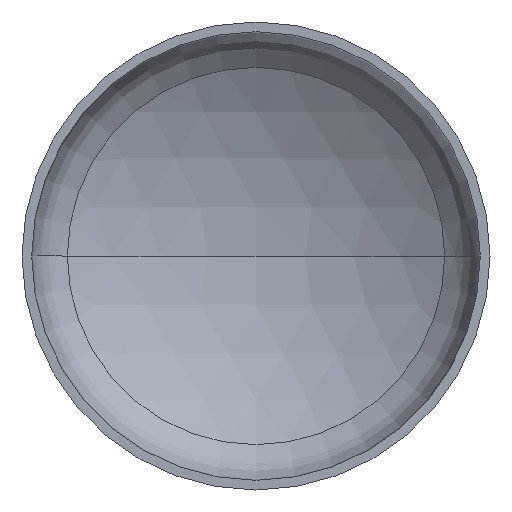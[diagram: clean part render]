
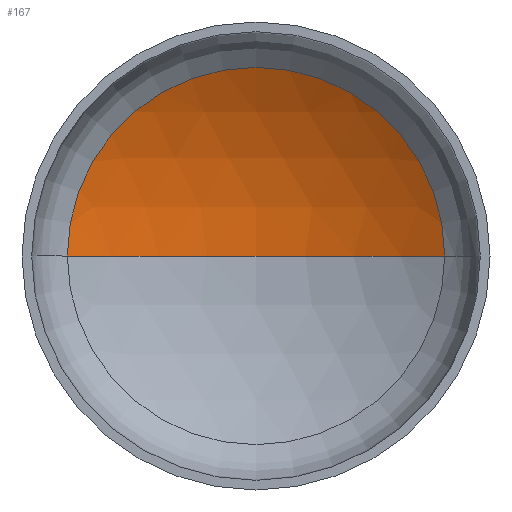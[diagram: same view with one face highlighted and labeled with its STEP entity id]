
A CAD part, front view. The second image highlights one B-rep face of the part: STEP entity #167.
In plain terms, the highlighted spherical face has radius 1120 mm.
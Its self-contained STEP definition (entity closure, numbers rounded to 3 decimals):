
#9 = AXIS2_PLACEMENT_3D ( 'NONE', #233, #38, #179 ) ;
#10 = AXIS2_PLACEMENT_3D ( 'NONE', #117, #84, #149 ) ;
#26 = AXIS2_PLACEMENT_3D ( 'NONE', #143, #174, #148 ) ;
#38 = DIRECTION ( 'NONE',  ( 0., 0., -1. ) ) ;
#39 = ORIENTED_EDGE ( 'NONE', *, *, #342, .T. ) ;
#84 = DIRECTION ( 'NONE',  ( 0., -1., 0. ) ) ;
#86 = CIRCLE ( 'NONE', #10, 564.331 ) ;
#97 = CARTESIAN_POINT ( 'NONE',  ( 0., -691.722, 0. ) ) ;
#117 = CARTESIAN_POINT ( 'NONE',  ( 0., 275.713, 0. ) ) ;
#125 = CARTESIAN_POINT ( 'NONE',  ( 0., 428.278, 0. ) ) ;
#130 = VERTEX_POINT ( 'NONE', #263 ) ;
#143 = CARTESIAN_POINT ( 'NONE',  ( 0., -691.722, 0. ) ) ;
#148 = DIRECTION ( 'NONE',  ( -1., 0., 0. ) ) ;
#149 = DIRECTION ( 'NONE',  ( 1., 0., 0. ) ) ;
#167 = ADVANCED_FACE ( 'NONE', ( #270 ), #281, .F. ) ;
#171 = CIRCLE ( 'NONE', #9, 1120. ) ;
#174 = DIRECTION ( 'NONE',  ( 0., 0., -1. ) ) ;
#179 = DIRECTION ( 'NONE',  ( -1., 0., 0. ) ) ;
#194 = CARTESIAN_POINT ( 'NONE',  ( 564.331, 275.713, 0. ) ) ;
#205 = DIRECTION ( 'NONE',  ( 1., 0., 0. ) ) ;
#233 = CARTESIAN_POINT ( 'NONE',  ( 0., -691.722, 0. ) ) ;
#254 = DIRECTION ( 'NONE',  ( 0., 0., 1. ) ) ;
#263 = CARTESIAN_POINT ( 'NONE',  ( -564.331, 275.713, 0. ) ) ;
#268 = EDGE_LOOP ( 'NONE', ( #392, #39, #389 ) ) ;
#270 = FACE_OUTER_BOUND ( 'NONE', #268, .T. ) ;
#281 = SPHERICAL_SURFACE ( 'NONE', #26, 1120. ) ;
#294 = VERTEX_POINT ( 'NONE', #125 ) ;
#299 = CIRCLE ( 'NONE', #320, 1120. ) ;
#320 = AXIS2_PLACEMENT_3D ( 'NONE', #97, #254, #205 ) ;
#338 = EDGE_CURVE ( 'NONE', #406, #130, #86, .T. ) ;
#342 = EDGE_CURVE ( 'NONE', #294, #406, #171, .T. ) ;
#384 = EDGE_CURVE ( 'NONE', #294, #130, #299, .T. ) ;
#389 = ORIENTED_EDGE ( 'NONE', *, *, #338, .T. ) ;
#392 = ORIENTED_EDGE ( 'NONE', *, *, #384, .F. ) ;
#406 = VERTEX_POINT ( 'NONE', #194 ) ;
